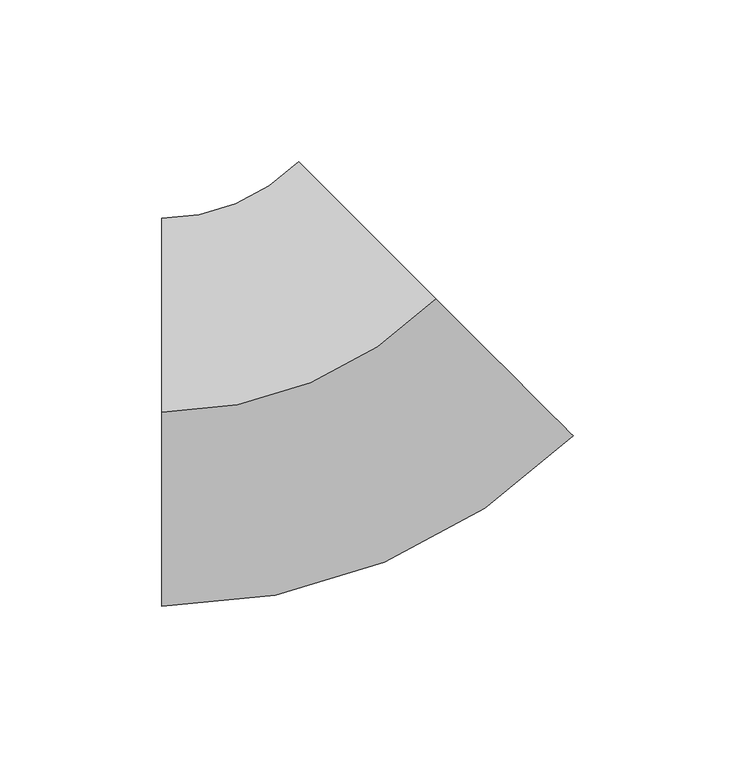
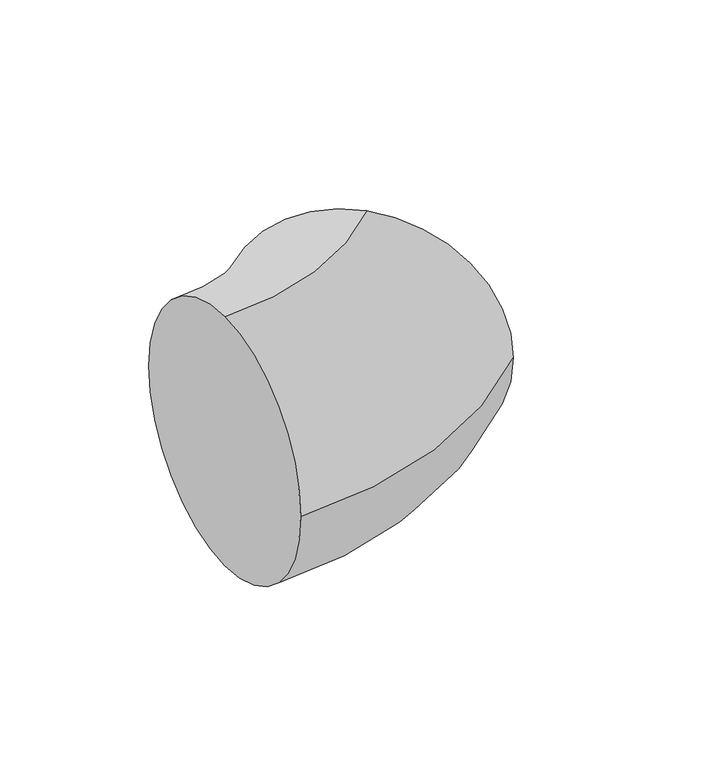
"""IFC4 building model written with IfcOpenShell, lengths in millimetres: duct fitting geometry, Семейство10 : Стандартная."""

from ifc_helpers import new_model, si_unit, point, frame, origin, place, context, project, spatial, circle_curve, ellipse_curve, trimmed, source, transform, mapped, element, save
from ifc_brep_helpers import plane_surface, revolved_surface, advanced_brep


def duct_fitting_a78c4c42(model_context):
    return source(origin(), model_context, "Body", "AdvancedBrep", [
        advanced_brep(
        [(-49.7056275, 0.0, 60.0), (-49.7056275, 60.0, 0.0), (-49.7056275, 0.0, -60.0), (-49.7056275, -60.0, 0.0), (35.1471863, 35.1471863, 60.0), (77.5735931, -7.2792206, 0.0), (35.1471863, 35.1471863, -60.0), (-7.2792206, 77.5735931, 0.0)],
        [
            (0, 1, circle_curve(frame((-49.7056275, 0.0, 0.0), z_axis=(-1.0, 0.0, 0.0), x_axis=(0.0, 1.0, 0.0)), 60.0)),
            (1, 2, circle_curve(frame((-49.7056275, 0.0, 0.0), z_axis=(-1.0, 0.0, 0.0), x_axis=(0.0, 1.0, 0.0)), 60.0)),
            (2, 3, circle_curve(frame((-49.7056275, 0.0, 0.0), z_axis=(-1.0, 0.0, 0.0), x_axis=(0.0, 1.0, 0.0)), 60.0)),
            (3, 0, circle_curve(frame((-49.7056275, 0.0, 0.0), z_axis=(-1.0, 0.0, 0.0), x_axis=(0.0, 1.0, 0.0)), 60.0)),
            (4, 5, circle_curve(frame((35.1471863, 35.1471863, 0.0), z_axis=(0.7071067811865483, 0.7071067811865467, 0.0), x_axis=(-0.7071067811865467, 0.7071067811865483, 0.0)), 60.0)),
            (5, 6, circle_curve(frame((35.1471863, 35.1471863, 0.0), z_axis=(0.7071067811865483, 0.7071067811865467, 0.0), x_axis=(-0.7071067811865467, 0.7071067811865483, 0.0)), 60.0)),
            (6, 7, circle_curve(frame((35.1471863, 35.1471863, 0.0), z_axis=(0.7071067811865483, 0.7071067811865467, 0.0), x_axis=(-0.7071067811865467, 0.7071067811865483, 0.0)), 60.0)),
            (7, 4, circle_curve(frame((35.1471863, 35.1471863, 0.0), z_axis=(0.7071067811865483, 0.7071067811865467, 0.0), x_axis=(-0.7071067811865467, 0.7071067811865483, 0.0)), 60.0)),
            (7, 1, circle_curve(frame((-49.7056275, 120.0, 0.0), z_axis=(0.0, 0.0, -1.0), x_axis=(0.0, -1.0, 0.0)), 60.0)),
            (0, 4, circle_curve(frame((-49.7056275, 120.0, 60.0), z_axis=(0.0, 0.0, 1.0), x_axis=(0.0, -1.0, 0.0)), 120.0)),
            (6, 2, circle_curve(frame((-49.7056275, 120.0, -60.0), z_axis=(0.0, 0.0, -1.0), x_axis=(0.0, -1.0, 0.0)), 120.0)),
            (5, 3, circle_curve(frame((-49.7056275, 120.0, 0.0), z_axis=(0.0, 0.0, -1.0), x_axis=(0.0, -1.0, 0.0)), 180.0)),
        ],
        [
            plane_surface(frame((-49.7056275, 0.0, 0.0), z_axis=(-1.0, 0.0, 0.0), x_axis=(0.0, 0.0, 1.0))),
            plane_surface(frame((35.1471863, 35.1471863, 0.0), z_axis=(0.7071067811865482, 0.7071067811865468, 0.0), x_axis=(0.0, 0.0, 1.0))),
            revolved_surface(trimmed(ellipse_curve(frame((-49.7056275, 0.0, 0.0), z_axis=(-1.0, 0.0, 0.0), x_axis=(0.0, 1.0, 0.0)), 60.0, 60.0), [point((-49.7056275, 0.0, 60.0))], [point((-49.7056275, 60.0, 0.0))], True, "CARTESIAN"), (-49.7056275, 120.0, 0.0), (0.0, 0.0, 1.0)),
            revolved_surface(trimmed(ellipse_curve(frame((-49.7056275, 0.0, 0.0), z_axis=(-1.0, 0.0, 0.0), x_axis=(0.0, 1.0, 0.0)), 60.0, 60.0), [point((-49.7056275, 60.0, 0.0))], [point((-49.7056275, 0.0, -60.0))], True, "CARTESIAN"), (-49.7056275, 120.0, 0.0), (0.0, 0.0, 1.0)),
            revolved_surface(trimmed(ellipse_curve(frame((-49.7056275, 0.0, 0.0), z_axis=(-1.0, 0.0, 0.0), x_axis=(0.0, 1.0, 0.0)), 60.0, 60.0), [point((-49.7056275, 0.0, -60.0))], [point((-49.7056275, -60.0, 0.0))], True, "CARTESIAN"), (-49.7056275, 120.0, 0.0), (0.0, 0.0, 1.0)),
            revolved_surface(trimmed(ellipse_curve(frame((-49.7056275, 0.0, 0.0), z_axis=(-1.0, 0.0, 0.0), x_axis=(0.0, 1.0, 0.0)), 60.0, 60.0), [point((-49.7056275, -60.0, 0.0))], [point((-49.7056275, 0.0, 60.0))], True, "CARTESIAN"), (-49.7056275, 120.0, 0.0), (0.0, 0.0, 1.0)),
        ],
        [
            (0, [[1, 2, 3, 4]]),
            (1, [[5, 6, 7, 8]]),
            (2, [[9, -1, 10, -8]]),
            (3, [[11, -2, -9, -7]]),
            (4, [[12, -3, -11, -6]]),
            (5, [[-10, -4, -12, -5]]),
        ],
    ),
    ])


if __name__ == "__main__":
    model = new_model("IFC4")
    model_context = context("Model", 3, world=origin())
    ifc_project = project(units=[si_unit("LENGTHUNIT", "METRE", prefix="MILLI")], contexts=[model_context])
    site = spatial("IfcSite", under=ifc_project)
    building = spatial("IfcBuilding", under=site)
    placement = place(None, origin())
    duct_fitting_shape = duct_fitting_a78c4c42(model_context)
    element("IfcDuctFitting", 1, ObjectType="Семейство10 : Стандартная", at=placement, inside=building, context=model_context, shape_type="MappedRepresentation", body=[
        mapped(duct_fitting_shape, transform((0.0, 0.0, 0.0), x_axis=(1.0, 0.0, 0.0), y_axis=(0.0, 1.0, 0.0), z_axis=(0.0, 0.0, 1.0))),
    ])
    save(model, "model.ifc")
